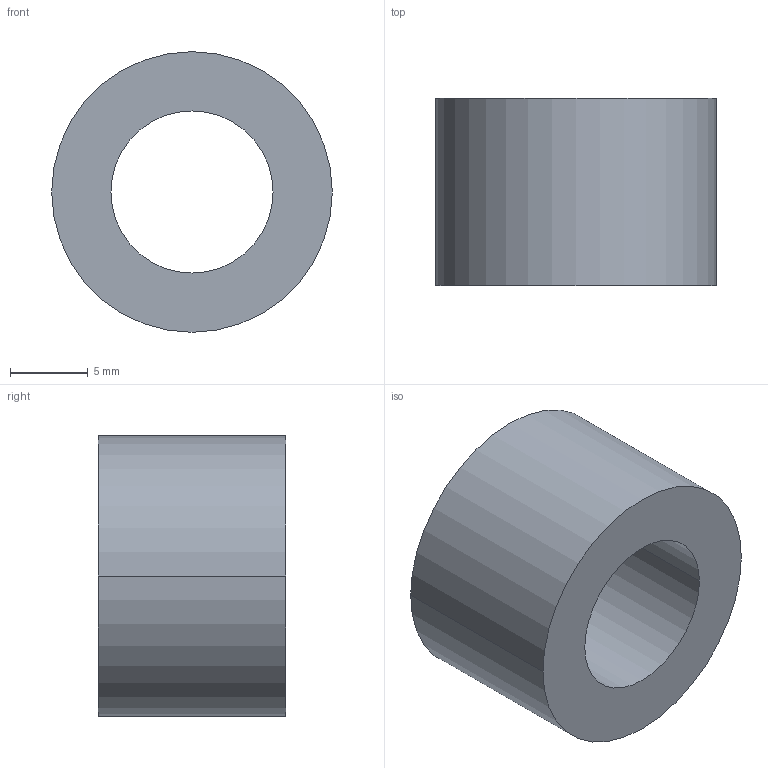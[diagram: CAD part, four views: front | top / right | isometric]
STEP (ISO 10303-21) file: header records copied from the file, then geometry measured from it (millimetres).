
FILE_DESCRIPTION (( 'STEP AP203' ), '1' );
FILE_NAME ('30800.WPP18E10.4.step', '2019-01-23T22:34:51', ( '' ), ( '' ), 'SwSTEP 2.0', 'SolidWorks 2017', '' );
FILE_SCHEMA (( 'CONFIG_CONTROL_DESIGN' ));
Length unit declared in the file: millimetre
Products named in the file (1): 30800.WPP18E10.4
Bounding box: 18 x 12 x 18 mm (x, y, z)
Volume: 2003.8 mm3; surface area: 1383.4 mm2
Topology: 1 solids, 1 shells, 8 faces, 16 edges, 10 vertices
Faces by surface type: cylinder 4, torus 2, plane 2
Entity records: 297 total; most frequent: DIRECTION 46, CARTESIAN_POINT 35, ORIENTED_EDGE 32, AXIS2_PLACEMENT_3D 21, EDGE_CURVE 16, CIRCLE 12, EDGE_LOOP 10, VERTEX_POINT 10
